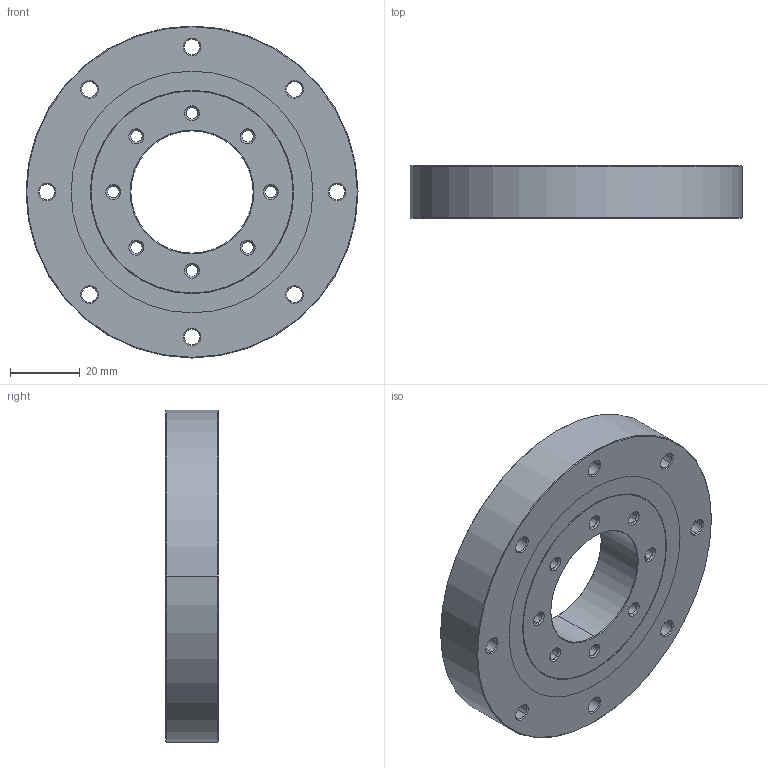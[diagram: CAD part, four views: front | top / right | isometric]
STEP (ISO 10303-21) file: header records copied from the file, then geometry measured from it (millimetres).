
FILE_DESCRIPTION(('no description'),'unknown implementation level');
FILE_NAME('CRBE03515A_52.stp',' ',('HIWIN GmbH'),('CADClick - KiM GmbH - www.kimweb.de'),'unknown preprocess','ACIS','unknown authorization');
FILE_SCHEMA(('automotive_design'));
Length unit declared in the file: millimetre
Products named in the file (28): CRBE03515A_1; CRBE03515A_2; CRBE03515A_3; CRBE03515A_4; CRBE03515A_5; CRBE03515A_6; CRBE03515A_7; CRBE03515A_8; CRBE03515A_9; CRBE03515A_10; CRBE03515A_11; CRBE03515A_12; CRBE03515A_13; CRBE03515A_14; CRBE03515A_15; CRBE03515A_16; CRBE03515A_17; CRBE03515A_18; CRBE03515A_19; CRBE03515A_20; CRBE03515A_21; CRBE03515A_22; CRBE03515A_23; CRBE03515A_24; CRBE03515A_25; CRBE03515A_26; CRBE03515A_27; CRBE03515A
Bounding box: 95 x 15 x 95 mm (x, y, z)
Volume: 73377.6 mm3; surface area: 30912.9 mm2
Topology: 4 solids, 28 shells, 232 faces, 596 edges, 404 vertices
Faces by surface type: cone 128, cylinder 80, plane 24
Entity records: 13881 total; most frequent: DIRECTION 1488, CARTESIAN_POINT 1260, ORIENTED_EDGE 1096, STYLED_ITEM 1068, PRESENTATION_STYLE_ASSIGNMENT 1068, COLOUR_RGB 1068, AXIS2_PLACEMENT_3D 632, EDGE_CURVE 596
